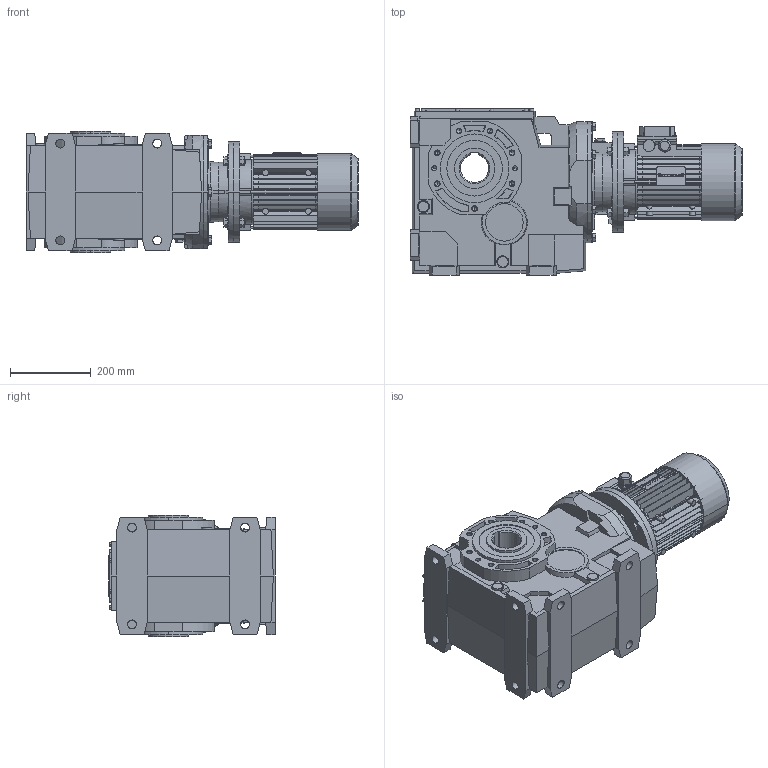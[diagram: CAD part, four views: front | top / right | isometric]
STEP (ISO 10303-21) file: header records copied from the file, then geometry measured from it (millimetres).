
FILE_DESCRIPTION( ( '' ), '1' );
FILE_NAME( '//expscmdclustefs.cadenas.external/client_exchange/iodir/jobs/output/wkb50801598_no0/STEP/B143UC149_59100_112_B570000000T1001_2_03.stp', '2012-11-06T01:25:45', ( '' ), ( '' ), ' ', ' ', ' ' );
FILE_SCHEMA( ( 'CONFIG_CONTROL_DESIGN' ) );
Length unit declared in the file: millimetre
Products named in the file (11): 1; 2; 3; 4; 5; 6; 7; 8; 9; 10; 11
Bounding box: 822.5 x 413 x 300 mm (x, y, z)
Volume: 48101061.5 mm3; surface area: 2140205.5 mm2
Topology: 11 solids, 11 shells, 2681 faces, 7237 edges, 4720 vertices
Faces by surface type: plane 1426, cylinder 1024, cone 216, torus 9, sphere 6
Entity records: 85289 total; most frequent: CARTESIAN_POINT 15951, DIRECTION 14829, ORIENTED_EDGE 14398, EDGE_CURVE 7199, AXIS2_PLACEMENT_3D 5246, VERTEX_POINT 4720, LINE 4337, VECTOR 4337
